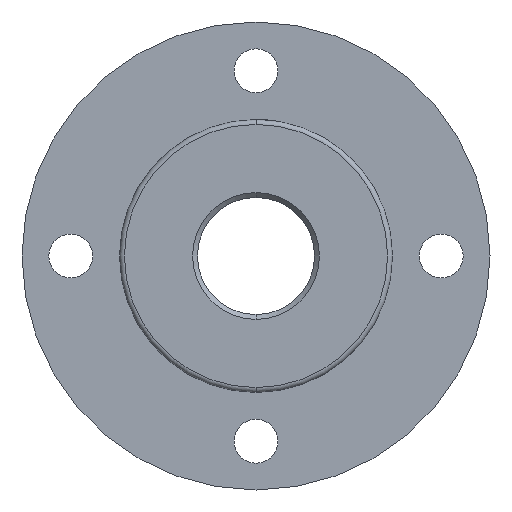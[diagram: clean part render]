
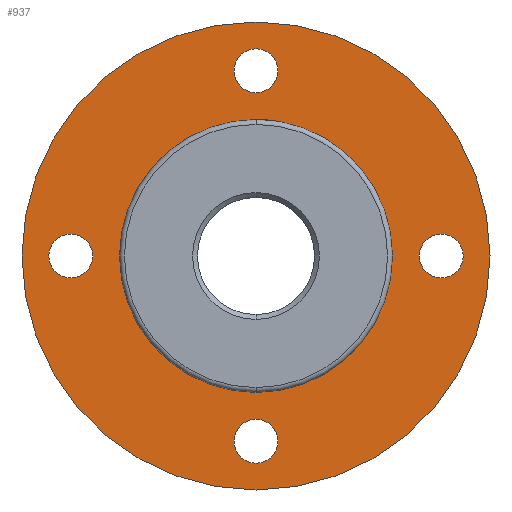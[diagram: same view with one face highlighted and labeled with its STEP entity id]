
A CAD part, front view. The second image highlights one B-rep face of the part: STEP entity #937.
In plain terms, the highlighted planar face has unit normal (0, -1, 0).
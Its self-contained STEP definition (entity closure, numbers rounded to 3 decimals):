
#72 = VERTEX_POINT ( 'NONE', #7059 ) ;
#116 = CARTESIAN_POINT ( 'NONE',  ( -19., 0., 2.25 ) ) ;
#257 = EDGE_CURVE ( 'NONE', #699, #6215, #5496, .T. ) ;
#346 = AXIS2_PLACEMENT_3D ( 'NONE', #2033, #4337, #894 ) ;
#391 = AXIS2_PLACEMENT_3D ( 'NONE', #6117, #3302, #7260 ) ;
#554 = DIRECTION ( 'NONE',  ( 0., 0., 1. ) ) ;
#637 = DIRECTION ( 'NONE',  ( 0., 0., 1. ) ) ;
#650 = EDGE_CURVE ( 'NONE', #1132, #6421, #7081, .T. ) ;
#652 = DIRECTION ( 'NONE',  ( 0., 1., 0. ) ) ;
#699 = VERTEX_POINT ( 'NONE', #5448 ) ;
#706 = CARTESIAN_POINT ( 'NONE',  ( -19., 0., 0. ) ) ;
#825 = EDGE_LOOP ( 'NONE', ( #4154, #2691 ) ) ;
#894 = DIRECTION ( 'NONE',  ( 0., 0., 1. ) ) ;
#937 = ADVANCED_FACE ( 'NONE', ( #3289, #4510, #1011, #1976, #6987, #7175 ), #5547, .F. ) ;
#1011 = FACE_BOUND ( 'NONE', #5509, .T. ) ;
#1031 = DIRECTION ( 'NONE',  ( 0., 1., 0. ) ) ;
#1043 = CARTESIAN_POINT ( 'NONE',  ( 0., 0., 0. ) ) ;
#1072 = CARTESIAN_POINT ( 'NONE',  ( 0., 0., -24. ) ) ;
#1090 = CARTESIAN_POINT ( 'NONE',  ( 0., 0., 0. ) ) ;
#1132 = VERTEX_POINT ( 'NONE', #4496 ) ;
#1243 = VERTEX_POINT ( 'NONE', #116 ) ;
#1442 = ORIENTED_EDGE ( 'NONE', *, *, #4184, .T. ) ;
#1443 = AXIS2_PLACEMENT_3D ( 'NONE', #5037, #1681, #6173 ) ;
#1663 = DIRECTION ( 'NONE',  ( 0., 0., 1. ) ) ;
#1681 = DIRECTION ( 'NONE',  ( 0., 1., 0. ) ) ;
#1749 = CARTESIAN_POINT ( 'NONE',  ( 0., 0., 0. ) ) ;
#1907 = AXIS2_PLACEMENT_3D ( 'NONE', #1043, #6154, #554 ) ;
#1925 = ORIENTED_EDGE ( 'NONE', *, *, #3977, .T. ) ;
#1964 = VERTEX_POINT ( 'NONE', #4983 ) ;
#1976 = FACE_BOUND ( 'NONE', #2165, .T. ) ;
#2033 = CARTESIAN_POINT ( 'NONE',  ( 0., 0., 19. ) ) ;
#2065 = VERTEX_POINT ( 'NONE', #2355 ) ;
#2146 = CARTESIAN_POINT ( 'NONE',  ( 0., 0., -19. ) ) ;
#2165 = EDGE_LOOP ( 'NONE', ( #2313, #1442 ) ) ;
#2176 = AXIS2_PLACEMENT_3D ( 'NONE', #6125, #2228, #2798 ) ;
#2228 = DIRECTION ( 'NONE',  ( 0., 1., 0. ) ) ;
#2285 = ORIENTED_EDGE ( 'NONE', *, *, #4300, .F. ) ;
#2290 = EDGE_LOOP ( 'NONE', ( #7222, #6894 ) ) ;
#2309 = AXIS2_PLACEMENT_3D ( 'NONE', #4436, #4989, #7224 ) ;
#2313 = ORIENTED_EDGE ( 'NONE', *, *, #5507, .T. ) ;
#2355 = CARTESIAN_POINT ( 'NONE',  ( 19., 0., 2.25 ) ) ;
#2375 = VERTEX_POINT ( 'NONE', #1072 ) ;
#2544 = CIRCLE ( 'NONE', #6270, 2.25 ) ;
#2674 = DIRECTION ( 'NONE',  ( 0., 1., 0. ) ) ;
#2691 = ORIENTED_EDGE ( 'NONE', *, *, #4039, .T. ) ;
#2798 = DIRECTION ( 'NONE',  ( 0., 0., 1. ) ) ;
#2801 = EDGE_CURVE ( 'NONE', #6215, #699, #4829, .T. ) ;
#2924 = EDGE_CURVE ( 'NONE', #2375, #72, #6944, .T. ) ;
#2979 = CIRCLE ( 'NONE', #6377, 2.25 ) ;
#3067 = EDGE_CURVE ( 'NONE', #1243, #5963, #2979, .T. ) ;
#3110 = AXIS2_PLACEMENT_3D ( 'NONE', #6043, #1031, #4930 ) ;
#3289 = FACE_BOUND ( 'NONE', #5815, .T. ) ;
#3302 = DIRECTION ( 'NONE',  ( 0., 1., 0. ) ) ;
#3571 = CIRCLE ( 'NONE', #4615, 24. ) ;
#3651 = CIRCLE ( 'NONE', #2309, 2.25 ) ;
#3740 = CARTESIAN_POINT ( 'NONE',  ( 0., 0., 14. ) ) ;
#3753 = CIRCLE ( 'NONE', #3110, 2.25 ) ;
#3940 = ORIENTED_EDGE ( 'NONE', *, *, #2924, .F. ) ;
#3977 = EDGE_CURVE ( 'NONE', #2065, #4130, #3753, .T. ) ;
#4003 = DIRECTION ( 'NONE',  ( 0., 1., 0. ) ) ;
#4039 = EDGE_CURVE ( 'NONE', #5963, #1243, #2544, .T. ) ;
#4079 = ORIENTED_EDGE ( 'NONE', *, *, #6783, .T. ) ;
#4130 = VERTEX_POINT ( 'NONE', #4163 ) ;
#4154 = ORIENTED_EDGE ( 'NONE', *, *, #3067, .T. ) ;
#4163 = CARTESIAN_POINT ( 'NONE',  ( 19., 0., -2.25 ) ) ;
#4184 = EDGE_CURVE ( 'NONE', #1964, #7283, #6854, .T. ) ;
#4223 = CARTESIAN_POINT ( 'NONE',  ( -19., 0., -2.25 ) ) ;
#4300 = EDGE_CURVE ( 'NONE', #72, #2375, #3571, .T. ) ;
#4337 = DIRECTION ( 'NONE',  ( 0., 1., 0. ) ) ;
#4404 = DIRECTION ( 'NONE',  ( 0., 0., 1. ) ) ;
#4436 = CARTESIAN_POINT ( 'NONE',  ( 19., 0., 0. ) ) ;
#4496 = CARTESIAN_POINT ( 'NONE',  ( 0., 0., -21.25 ) ) ;
#4510 = FACE_BOUND ( 'NONE', #2290, .T. ) ;
#4544 = DIRECTION ( 'NONE',  ( 0., 0., 1. ) ) ;
#4560 = ORIENTED_EDGE ( 'NONE', *, *, #257, .T. ) ;
#4615 = AXIS2_PLACEMENT_3D ( 'NONE', #1090, #5023, #1663 ) ;
#4623 = DIRECTION ( 'NONE',  ( 0., 1., 0. ) ) ;
#4829 = CIRCLE ( 'NONE', #4862, 14. ) ;
#4862 = AXIS2_PLACEMENT_3D ( 'NONE', #1749, #4003, #637 ) ;
#4930 = DIRECTION ( 'NONE',  ( 0., 0., 1. ) ) ;
#4983 = CARTESIAN_POINT ( 'NONE',  ( 0., 0., 16.75 ) ) ;
#4989 = DIRECTION ( 'NONE',  ( 0., 1., 0. ) ) ;
#5023 = DIRECTION ( 'NONE',  ( 0., 1., 0. ) ) ;
#5037 = CARTESIAN_POINT ( 'NONE',  ( 0., 0., 19. ) ) ;
#5075 = CARTESIAN_POINT ( 'NONE',  ( -19., 0., 0. ) ) ;
#5115 = CARTESIAN_POINT ( 'NONE',  ( 0., 0., -16.75 ) ) ;
#5163 = DIRECTION ( 'NONE',  ( 0., 0., 1. ) ) ;
#5223 = ORIENTED_EDGE ( 'NONE', *, *, #2801, .T. ) ;
#5448 = CARTESIAN_POINT ( 'NONE',  ( 0., 0., -14. ) ) ;
#5496 = CIRCLE ( 'NONE', #1907, 14. ) ;
#5507 = EDGE_CURVE ( 'NONE', #7283, #1964, #7025, .T. ) ;
#5509 = EDGE_LOOP ( 'NONE', ( #1925, #4079 ) ) ;
#5547 = PLANE ( 'NONE',  #391 ) ;
#5753 = CARTESIAN_POINT ( 'NONE',  ( 0., 0., 21.25 ) ) ;
#5815 = EDGE_LOOP ( 'NONE', ( #5223, #4560 ) ) ;
#5861 = DIRECTION ( 'NONE',  ( 0., 0., 1. ) ) ;
#5963 = VERTEX_POINT ( 'NONE', #4223 ) ;
#6043 = CARTESIAN_POINT ( 'NONE',  ( 19., 0., 0. ) ) ;
#6117 = CARTESIAN_POINT ( 'NONE',  ( 0., 0., 0. ) ) ;
#6125 = CARTESIAN_POINT ( 'NONE',  ( 0., 0., -19. ) ) ;
#6154 = DIRECTION ( 'NONE',  ( 0., 1., 0. ) ) ;
#6173 = DIRECTION ( 'NONE',  ( 0., 0., 1. ) ) ;
#6199 = EDGE_LOOP ( 'NONE', ( #3940, #2285 ) ) ;
#6215 = VERTEX_POINT ( 'NONE', #3740 ) ;
#6270 = AXIS2_PLACEMENT_3D ( 'NONE', #5075, #652, #4544 ) ;
#6277 = EDGE_CURVE ( 'NONE', #6421, #1132, #6672, .T. ) ;
#6377 = AXIS2_PLACEMENT_3D ( 'NONE', #706, #4623, #5163 ) ;
#6421 = VERTEX_POINT ( 'NONE', #5115 ) ;
#6434 = CARTESIAN_POINT ( 'NONE',  ( 0., 0., 0. ) ) ;
#6522 = AXIS2_PLACEMENT_3D ( 'NONE', #6434, #7001, #5861 ) ;
#6672 = CIRCLE ( 'NONE', #2176, 2.25 ) ;
#6673 = AXIS2_PLACEMENT_3D ( 'NONE', #2146, #2674, #4404 ) ;
#6783 = EDGE_CURVE ( 'NONE', #4130, #2065, #3651, .T. ) ;
#6854 = CIRCLE ( 'NONE', #346, 2.25 ) ;
#6894 = ORIENTED_EDGE ( 'NONE', *, *, #650, .T. ) ;
#6944 = CIRCLE ( 'NONE', #6522, 24. ) ;
#6987 = FACE_BOUND ( 'NONE', #825, .T. ) ;
#7001 = DIRECTION ( 'NONE',  ( 0., 1., 0. ) ) ;
#7025 = CIRCLE ( 'NONE', #1443, 2.25 ) ;
#7059 = CARTESIAN_POINT ( 'NONE',  ( 0., 0., 24. ) ) ;
#7081 = CIRCLE ( 'NONE', #6673, 2.25 ) ;
#7175 = FACE_OUTER_BOUND ( 'NONE', #6199, .T. ) ;
#7222 = ORIENTED_EDGE ( 'NONE', *, *, #6277, .T. ) ;
#7224 = DIRECTION ( 'NONE',  ( 0., 0., 1. ) ) ;
#7260 = DIRECTION ( 'NONE',  ( 0., 0., 1. ) ) ;
#7283 = VERTEX_POINT ( 'NONE', #5753 ) ;
